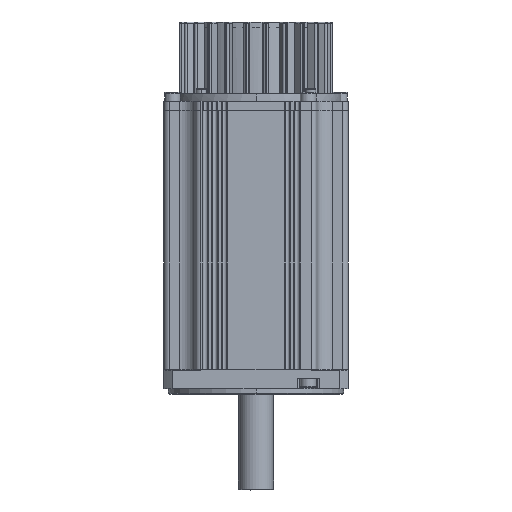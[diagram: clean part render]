
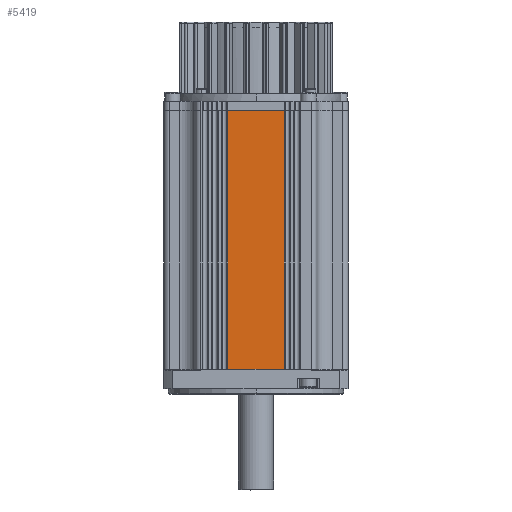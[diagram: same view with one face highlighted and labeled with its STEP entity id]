
A CAD part, front view. The second image highlights one B-rep face of the part: STEP entity #5419.
In plain terms, the highlighted planar face has unit normal (0, -1, 0).
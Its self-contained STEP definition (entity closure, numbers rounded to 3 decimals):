
#452=DIRECTION('',(1.,0.,0.));
#453=VECTOR('',#452,30.8);
#454=CARTESIAN_POINT('',(-15.4,-50.,0.));
#455=LINE('',#454,#453);
#1673=DIRECTION('',(1.,0.,0.));
#1674=VECTOR('',#1673,30.8);
#1675=CARTESIAN_POINT('',(-15.4,-50.,140.5));
#1676=LINE('',#1675,#1674);
#2329=DIRECTION('',(0.,0.,-1.));
#2330=VECTOR('',#2329,140.5);
#2331=CARTESIAN_POINT('',(-15.4,-50.,140.5));
#2332=LINE('',#2331,#2330);
#2333=DIRECTION('',(0.,0.,1.));
#2334=VECTOR('',#2333,140.5);
#2335=CARTESIAN_POINT('',(15.4,-50.,0.));
#2336=LINE('',#2335,#2334);
#3383=CARTESIAN_POINT('',(-15.4,-50.,0.));
#3385=VERTEX_POINT('',#3383);
#3389=CARTESIAN_POINT('',(-15.4,-50.,140.5));
#3390=VERTEX_POINT('',#3389);
#3391=CARTESIAN_POINT('',(15.4,-50.,140.5));
#3393=VERTEX_POINT('',#3391);
#3397=CARTESIAN_POINT('',(15.4,-50.,0.));
#3398=VERTEX_POINT('',#3397);
#5406=CARTESIAN_POINT('',(-33.,-50.,0.));
#5407=DIRECTION('',(0.,-1.,0.));
#5408=DIRECTION('',(1.,0.,0.));
#5409=AXIS2_PLACEMENT_3D('',#5406,#5407,#5408);
#5410=PLANE('',#5409);
#5412=ORIENTED_EDGE('',*,*,#5411,.F.);
#5413=ORIENTED_EDGE('',*,*,#4533,.T.);
#5415=ORIENTED_EDGE('',*,*,#5414,.F.);
#5416=ORIENTED_EDGE('',*,*,#3725,.F.);
#5417=EDGE_LOOP('',(#5412,#5413,#5415,#5416));
#5418=FACE_OUTER_BOUND('',#5417,.F.);
#5419=ADVANCED_FACE('',(#5418),#5410,.T.);
#3725=EDGE_CURVE('',#3385,#3398,#455,.T.);
#4533=EDGE_CURVE('',#3390,#3393,#1676,.T.);
#5411=EDGE_CURVE('',#3390,#3385,#2332,.T.);
#5414=EDGE_CURVE('',#3398,#3393,#2336,.T.);
